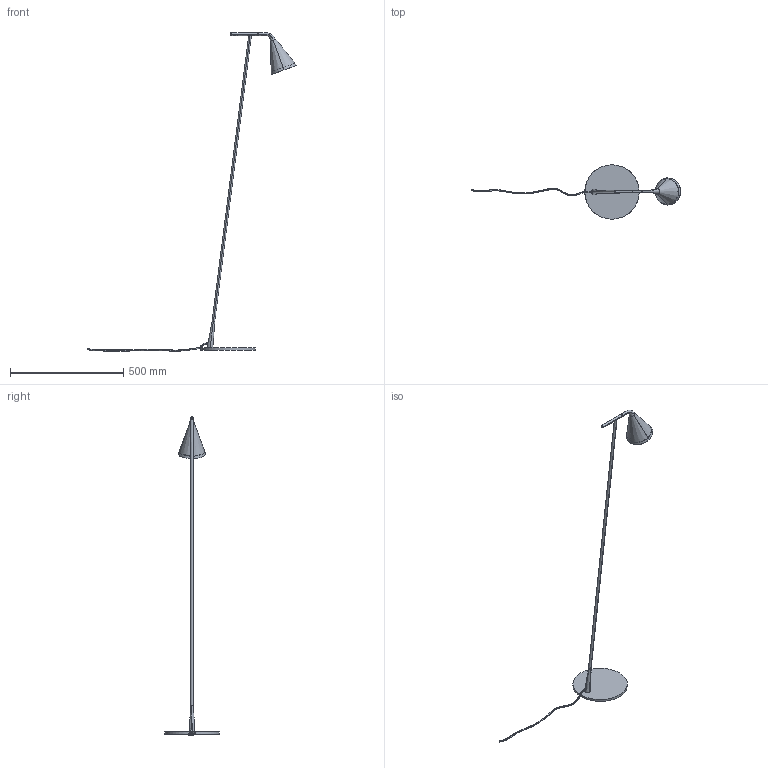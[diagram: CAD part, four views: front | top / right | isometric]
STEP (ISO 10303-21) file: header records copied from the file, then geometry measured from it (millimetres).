
FILE_DESCRIPTION(/* description */ (''),/* implementation_level */ '2;1');
FILE_NAME(/* name */ '5I6W65~M',/* time_stamp */ '2022-11-16T09:48:03+01:00',/* author */ (''),/* organization */ (''),/* preprocessor_version */ 'ST-DEVELOPER v15',/* originating_system */ '',/* authorisation */ '');
FILE_SCHEMA (('AUTOMOTIVE_DESIGN'));
Length unit declared in the file: millimetre
Products named in the file (1): Document
Bounding box: 926.07 x 239.55 x 1407.62 mm (x, y, z)
Volume: 562493.8 mm3; surface area: 274130.7 mm2
Topology: 10 solids, 11 shells, 118 faces, 275 edges, 182 vertices
Faces by surface type: bspline 118
Entity records: 11001 total; most frequent: CARTESIAN_POINT 7592, ORIENTED_EDGE 544, PCURVE 544, DEFINITIONAL_REPRESENTATION 544, B_SPLINE_CURVE_WITH_KNOTS 543, SURFACE_CURVE 273, EDGE_CURVE 273, VERTEX_POINT 179
